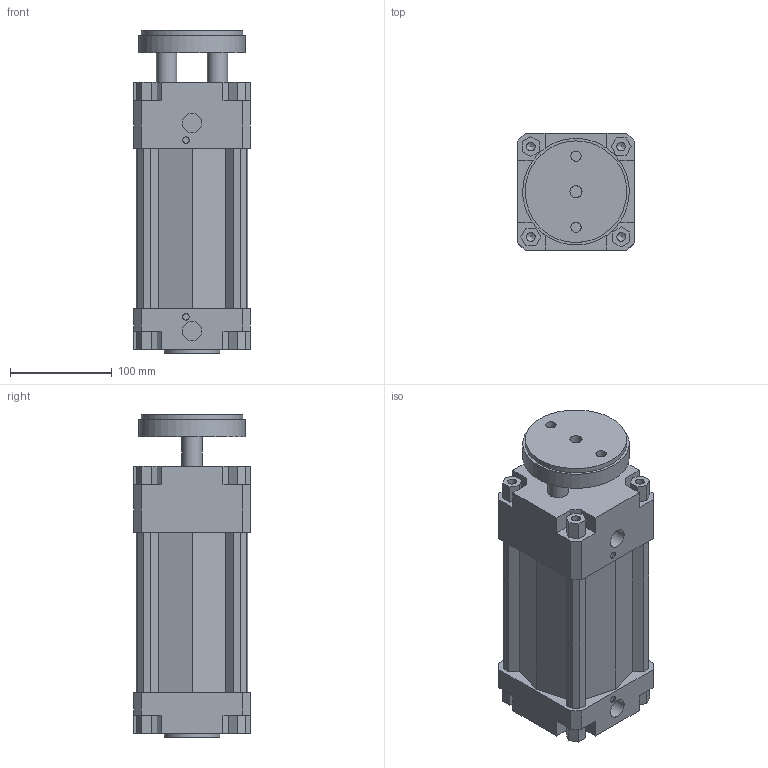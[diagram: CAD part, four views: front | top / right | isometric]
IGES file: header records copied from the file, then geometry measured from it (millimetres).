
Global section: file name: 134#_100_0100_01; native system: Autodesk Inventor 2014; preprocessor: unknown; author: A. Manieri; date: 20161006.165259; units: millimetre
Bounding box: 115 x 115 x 318 mm (x, y, z)
Volume: 2416449.8 mm3; surface area: 320828.1 mm2
Topology: 2 solids, 2 shells, 180 faces, 491 edges, 335 vertices
Faces by surface type: bspline 180
